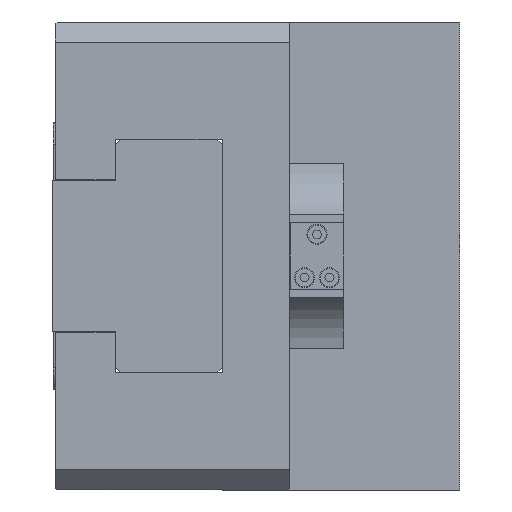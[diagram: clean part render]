
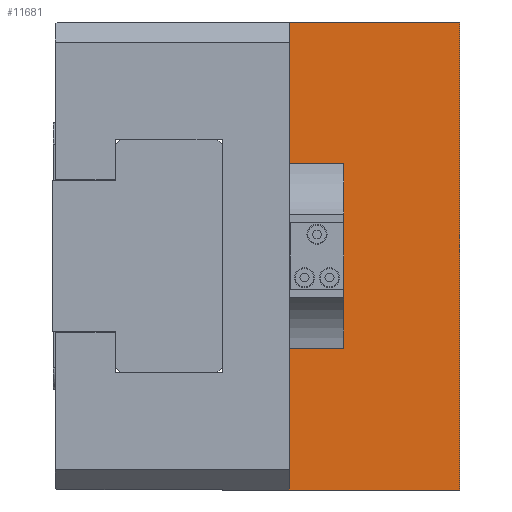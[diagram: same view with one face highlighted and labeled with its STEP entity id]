
A CAD part, left-side view. The second image highlights one B-rep face of the part: STEP entity #11681.
In plain terms, the highlighted planar face has unit normal (-1, 0, 0).
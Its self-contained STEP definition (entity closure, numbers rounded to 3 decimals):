
#20 = VECTOR ( 'NONE', #16832, 1000. ) ;
#168 = CARTESIAN_POINT ( 'NONE',  ( -105., 0., -70. ) ) ;
#220 = ORIENTED_EDGE ( 'NONE', *, *, #7412, .F. ) ;
#690 = VECTOR ( 'NONE', #2663, 1000. ) ;
#1551 = VECTOR ( 'NONE', #5206, 1000. ) ;
#2068 = ORIENTED_EDGE ( 'NONE', *, *, #4746, .T. ) ;
#2263 = CARTESIAN_POINT ( 'NONE',  ( -105., 0., -70. ) ) ;
#2653 = LINE ( 'NONE', #7484, #4101 ) ;
#2663 = DIRECTION ( 'NONE',  ( 0., -1., 0. ) ) ;
#2799 = EDGE_CURVE ( 'NONE', #12692, #16842, #11456, .T. ) ;
#2817 = CARTESIAN_POINT ( 'NONE',  ( -105., 34.75, -27.525 ) ) ;
#3322 = LINE ( 'NONE', #4601, #17097 ) ;
#4005 = LINE ( 'NONE', #7038, #690 ) ;
#4101 = VECTOR ( 'NONE', #7508, 1000. ) ;
#4152 = VERTEX_POINT ( 'NONE', #5030 ) ;
#4425 = EDGE_CURVE ( 'NONE', #4152, #17151, #2653, .T. ) ;
#4601 = CARTESIAN_POINT ( 'NONE',  ( -105., 0., -27.525 ) ) ;
#4746 = EDGE_CURVE ( 'NONE', #16842, #16683, #8809, .T. ) ;
#4931 = LINE ( 'NONE', #6693, #15921 ) ;
#5030 = CARTESIAN_POINT ( 'NONE',  ( -105., 34.75, 27.525 ) ) ;
#5206 = DIRECTION ( 'NONE',  ( 0., 0., 1. ) ) ;
#6693 = CARTESIAN_POINT ( 'NONE',  ( -105., 51., 70. ) ) ;
#6810 = AXIS2_PLACEMENT_3D ( 'NONE', #14671, #14557, #14526 ) ;
#7038 = CARTESIAN_POINT ( 'NONE',  ( -105., 0., 27.525 ) ) ;
#7138 = CARTESIAN_POINT ( 'NONE',  ( -105., 51., 27.525 ) ) ;
#7412 = EDGE_CURVE ( 'NONE', #15845, #15553, #4931, .T. ) ;
#7484 = CARTESIAN_POINT ( 'NONE',  ( -105., 34.75, 70. ) ) ;
#7508 = DIRECTION ( 'NONE',  ( 0., 0., -1. ) ) ;
#7559 = VECTOR ( 'NONE', #13281, 1000. ) ;
#7815 = CARTESIAN_POINT ( 'NONE',  ( -105., 0., 70. ) ) ;
#7846 = EDGE_CURVE ( 'NONE', #9203, #16683, #8990, .T. ) ;
#7907 = EDGE_LOOP ( 'NONE', ( #9347, #14440, #12986, #220, #17947, #14693, #2068, #9101 ) ) ;
#8809 = LINE ( 'NONE', #13205, #7559 ) ;
#8990 = LINE ( 'NONE', #16857, #1551 ) ;
#9101 = ORIENTED_EDGE ( 'NONE', *, *, #7846, .F. ) ;
#9203 = VERTEX_POINT ( 'NONE', #7138 ) ;
#9347 = ORIENTED_EDGE ( 'NONE', *, *, #10328, .T. ) ;
#9523 = EDGE_CURVE ( 'NONE', #17151, #15553, #3322, .T. ) ;
#9989 = CARTESIAN_POINT ( 'NONE',  ( -105., 0., 70. ) ) ;
#10328 = EDGE_CURVE ( 'NONE', #9203, #4152, #4005, .T. ) ;
#11011 = CARTESIAN_POINT ( 'NONE',  ( -105., 51., -70. ) ) ;
#11456 = LINE ( 'NONE', #9989, #17464 ) ;
#11681 = ADVANCED_FACE ( 'NONE', ( #15281 ), #14713, .T. ) ;
#11845 = LINE ( 'NONE', #168, #20 ) ;
#12692 = VERTEX_POINT ( 'NONE', #2263 ) ;
#12986 = ORIENTED_EDGE ( 'NONE', *, *, #9523, .T. ) ;
#13205 = CARTESIAN_POINT ( 'NONE',  ( -105., 121., 70. ) ) ;
#13281 = DIRECTION ( 'NONE',  ( 0., 1., 0. ) ) ;
#14440 = ORIENTED_EDGE ( 'NONE', *, *, #4425, .T. ) ;
#14526 = DIRECTION ( 'NONE',  ( 0., 0., 1. ) ) ;
#14557 = DIRECTION ( 'NONE',  ( -1., 0., 0. ) ) ;
#14671 = CARTESIAN_POINT ( 'NONE',  ( -105., 0., 70. ) ) ;
#14693 = ORIENTED_EDGE ( 'NONE', *, *, #2799, .T. ) ;
#14713 = PLANE ( 'NONE',  #6810 ) ;
#15073 = DIRECTION ( 'NONE',  ( 0., 1., 0. ) ) ;
#15281 = FACE_OUTER_BOUND ( 'NONE', #7907, .T. ) ;
#15452 = CARTESIAN_POINT ( 'NONE',  ( -105., 51., 70. ) ) ;
#15553 = VERTEX_POINT ( 'NONE', #17132 ) ;
#15604 = DIRECTION ( 'NONE',  ( 0., 0., 1. ) ) ;
#15845 = VERTEX_POINT ( 'NONE', #11011 ) ;
#15921 = VECTOR ( 'NONE', #17305, 1000. ) ;
#16683 = VERTEX_POINT ( 'NONE', #15452 ) ;
#16832 = DIRECTION ( 'NONE',  ( 0., -1., 0. ) ) ;
#16842 = VERTEX_POINT ( 'NONE', #7815 ) ;
#16857 = CARTESIAN_POINT ( 'NONE',  ( -105., 51., 70. ) ) ;
#17097 = VECTOR ( 'NONE', #15073, 1000. ) ;
#17132 = CARTESIAN_POINT ( 'NONE',  ( -105., 51., -27.525 ) ) ;
#17151 = VERTEX_POINT ( 'NONE', #2817 ) ;
#17305 = DIRECTION ( 'NONE',  ( 0., 0., 1. ) ) ;
#17464 = VECTOR ( 'NONE', #15604, 1000. ) ;
#17808 = EDGE_CURVE ( 'NONE', #15845, #12692, #11845, .T. ) ;
#17947 = ORIENTED_EDGE ( 'NONE', *, *, #17808, .T. ) ;
